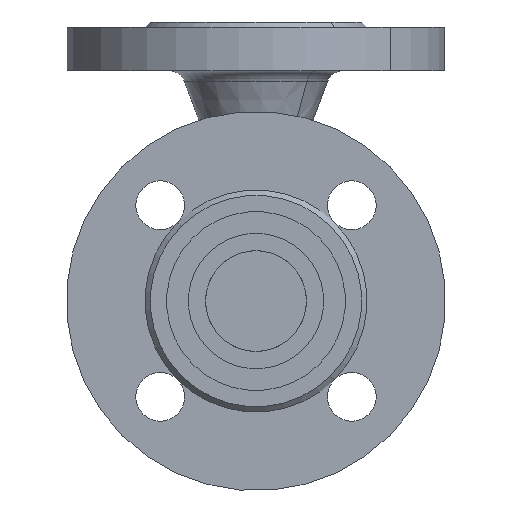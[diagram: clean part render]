
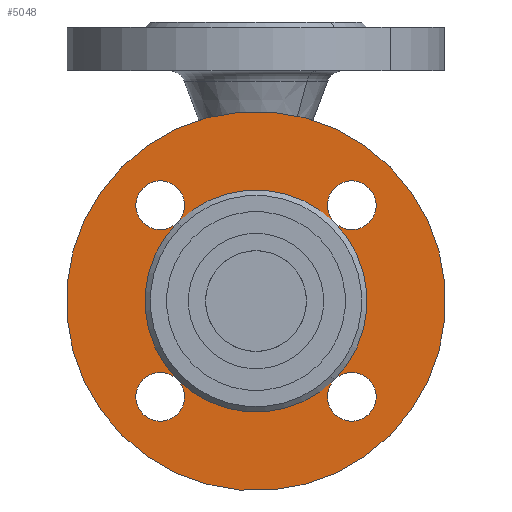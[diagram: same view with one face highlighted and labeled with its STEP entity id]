
A CAD part, front view. The second image highlights one B-rep face of the part: STEP entity #5048.
In plain terms, the highlighted planar face has unit normal (0, -1, 0).
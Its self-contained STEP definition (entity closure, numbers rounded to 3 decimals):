
#56 = VERTEX_POINT ( 'NONE', #8248 ) ;
#16461 = EDGE_CURVE ( 'NONE', #2964, #14043, #9989, .T. ) ;
#810 = CIRCLE ( 'NONE', #811, 9. ) ;
#811 = AXIS2_PLACEMENT_3D ( 'NONE', #812, #813, #814 ) ;
#812 = CARTESIAN_POINT ( 'NONE',  ( 50., 2., 0. ) ) ;
#813 = DIRECTION ( 'NONE',  ( 0., 1., 0. ) ) ;
#814 = DIRECTION ( 'NONE',  ( -1., 0., 0. ) ) ;
#961 = CIRCLE ( 'NONE', #962, 9. ) ;
#962 = AXIS2_PLACEMENT_3D ( 'NONE', #963, #964, #965 ) ;
#963 = CARTESIAN_POINT ( 'NONE',  ( 0., 2., -50. ) ) ;
#964 = DIRECTION ( 'NONE',  ( 0., 1., 0. ) ) ;
#965 = DIRECTION ( 'NONE',  ( -1., 0., 0. ) ) ;
#1134 = EDGE_CURVE ( 'NONE', #2964, #6689, #8934, .T. ) ;
#1160 = CIRCLE ( 'NONE', #1161, 41. ) ;
#1161 = AXIS2_PLACEMENT_3D ( 'NONE', #1162, #1163, #1164 ) ;
#1162 = CARTESIAN_POINT ( 'NONE',  ( 0., 2., 0. ) ) ;
#1163 = DIRECTION ( 'NONE',  ( 0., 1., 0. ) ) ;
#1164 = DIRECTION ( 'NONE',  ( -1., 0., 0. ) ) ;
#1475 = CIRCLE ( 'NONE', #1476, 9. ) ;
#1476 = AXIS2_PLACEMENT_3D ( 'NONE', #1479, #1480, #1481 ) ;
#1479 = CARTESIAN_POINT ( 'NONE',  ( -50., 2., 0. ) ) ;
#1480 = DIRECTION ( 'NONE',  ( 0., 1., 0. ) ) ;
#1481 = DIRECTION ( 'NONE',  ( -1., 0., 0. ) ) ;
#1635 = CARTESIAN_POINT ( 'NONE',  ( 70., 2., 0. ) ) ;
#1682 = VERTEX_POINT ( 'NONE', #9203 ) ;
#1859 = EDGE_CURVE ( 'NONE', #1682, #2964, #9265, .T. ) ;
#1931 = CARTESIAN_POINT ( 'NONE',  ( -70., 2., 0. ) ) ;
#2703 = CARTESIAN_POINT ( 'NONE',  ( -59., 2., 0. ) ) ;
#2737 = CARTESIAN_POINT ( 'NONE',  ( -41., 2., 0. ) ) ;
#2743 = CARTESIAN_POINT ( 'NONE',  ( 41., 2., 0. ) ) ;
#2744 = CIRCLE ( 'NONE', #2745, 9. ) ;
#2745 = AXIS2_PLACEMENT_3D ( 'NONE', #2746, #2750, #2751 ) ;
#2746 = CARTESIAN_POINT ( 'NONE',  ( 50., 2., 0. ) ) ;
#2750 = DIRECTION ( 'NONE',  ( 0., 1., 0. ) ) ;
#2751 = DIRECTION ( 'NONE',  ( -1., 0., 0. ) ) ;
#2775 = FACE_OUTER_BOUND ( 'NONE', #13787, .T. ) ;
#2776 = FACE_BOUND ( 'NONE', #6793, .T. ) ;
#2777 = PLANE ( 'NONE',  #2778 ) ;
#2778 = AXIS2_PLACEMENT_3D ( 'NONE', #2779, #2780, #2781 ) ;
#2779 = CARTESIAN_POINT ( 'NONE',  ( 41., 2., 0. ) ) ;
#2780 = DIRECTION ( 'NONE',  ( 0., 1., 0. ) ) ;
#2781 = DIRECTION ( 'NONE',  ( -1., 0., 0. ) ) ;
#2964 = VERTEX_POINT ( 'NONE', #10234 ) ;
#3056 = EDGE_CURVE ( 'NONE', #14026, #13930, #10619, .T. ) ;
#3613 = EDGE_CURVE ( 'NONE', #56, #14043, #810, .T. ) ;
#4026 = CARTESIAN_POINT ( 'NONE',  ( 9., 2., -50. ) ) ;
#4142 = CIRCLE ( 'NONE', #4143, 9. ) ;
#4143 = AXIS2_PLACEMENT_3D ( 'NONE', #4145, #4146, #4147 ) ;
#4145 = CARTESIAN_POINT ( 'NONE',  ( 0., 2., -50. ) ) ;
#4146 = DIRECTION ( 'NONE',  ( 0., 1., 0. ) ) ;
#4147 = DIRECTION ( 'NONE',  ( -1., 0., 0. ) ) ;
#4148 = CARTESIAN_POINT ( 'NONE',  ( -9., 2., -50. ) ) ;
#4672 = CIRCLE ( 'NONE', #4673, 70. ) ;
#4673 = AXIS2_PLACEMENT_3D ( 'NONE', #4675, #4676, #4677 ) ;
#4675 = CARTESIAN_POINT ( 'NONE',  ( 0., 2., 0. ) ) ;
#4676 = DIRECTION ( 'NONE',  ( 0., 1., 0. ) ) ;
#4677 = DIRECTION ( 'NONE',  ( -1., 0., 0. ) ) ;
#4702 = CARTESIAN_POINT ( 'NONE',  ( -9., 2., 50. ) ) ;
#5048 = ADVANCED_FACE ( 'NONE', ( #2775, #2776 ), #2777, .F. ) ;
#6685 = EDGE_CURVE ( 'NONE', #13218, #13340, #4672, .T. ) ;
#6689 = VERTEX_POINT ( 'NONE', #4702 ) ;
#6793 = EDGE_LOOP ( 'NONE', ( #7257, #11884, #12265, #7473, #11285, #10981, #8841, #12655, #12033, #10274, #10058, #9536, #14417, #13393 ) ) ;
#6847 = ORIENTED_EDGE ( 'NONE', *, *, #6685, .F. ) ;
#7257 = ORIENTED_EDGE ( 'NONE', *, *, #8385, .T. ) ;
#7473 = ORIENTED_EDGE ( 'NONE', *, *, #12835, .T. ) ;
#8248 = CARTESIAN_POINT ( 'NONE',  ( 59., 2., 0. ) ) ;
#8376 = CARTESIAN_POINT ( 'NONE',  ( 0., 2., -41. ) ) ;
#8385 = EDGE_CURVE ( 'NONE', #14043, #9410, #1160, .T. ) ;
#8475 = CIRCLE ( 'NONE', #8476, 41. ) ;
#8476 = AXIS2_PLACEMENT_3D ( 'NONE', #8481, #8482, #8483 ) ;
#8481 = CARTESIAN_POINT ( 'NONE',  ( 0., 2., 0. ) ) ;
#8482 = DIRECTION ( 'NONE',  ( 0., 1., 0. ) ) ;
#8483 = DIRECTION ( 'NONE',  ( -1., 0., 0. ) ) ;
#8506 = CIRCLE ( 'NONE', #8507, 9. ) ;
#8507 = AXIS2_PLACEMENT_3D ( 'NONE', #8508, #8509, #8510 ) ;
#8508 = CARTESIAN_POINT ( 'NONE',  ( 0., 2., -50. ) ) ;
#8509 = DIRECTION ( 'NONE',  ( 0., 1., 0. ) ) ;
#8510 = DIRECTION ( 'NONE',  ( -1., 0., 0. ) ) ;
#8516 = EDGE_CURVE ( 'NONE', #13930, #14026, #1475, .T. ) ;
#8670 = CIRCLE ( 'NONE', #8671, 9. ) ;
#8671 = AXIS2_PLACEMENT_3D ( 'NONE', #8672, #8673, #8674 ) ;
#8672 = CARTESIAN_POINT ( 'NONE',  ( 0., 2., 50. ) ) ;
#8673 = DIRECTION ( 'NONE',  ( 0., 1., 0. ) ) ;
#8674 = DIRECTION ( 'NONE',  ( -1., 0., 0. ) ) ;
#8841 = ORIENTED_EDGE ( 'NONE', *, *, #8516, .T. ) ;
#8934 = CIRCLE ( 'NONE', #8935, 9. ) ;
#8935 = AXIS2_PLACEMENT_3D ( 'NONE', #8936, #8937, #8938 ) ;
#8936 = CARTESIAN_POINT ( 'NONE',  ( 0., 2., 50. ) ) ;
#8937 = DIRECTION ( 'NONE',  ( 0., 1., 0. ) ) ;
#8938 = DIRECTION ( 'NONE',  ( -1., 0., 0. ) ) ;
#9132 = CIRCLE ( 'NONE', #9133, 70. ) ;
#9133 = AXIS2_PLACEMENT_3D ( 'NONE', #9134, #9135, #9136 ) ;
#9134 = CARTESIAN_POINT ( 'NONE',  ( 0., 2., 0. ) ) ;
#9135 = DIRECTION ( 'NONE',  ( 0., 1., 0. ) ) ;
#9136 = DIRECTION ( 'NONE',  ( -1., 0., 0. ) ) ;
#9194 = CIRCLE ( 'NONE', #9195, 41. ) ;
#9195 = AXIS2_PLACEMENT_3D ( 'NONE', #9196, #9197, #9198 ) ;
#9196 = CARTESIAN_POINT ( 'NONE',  ( 0., 2., 0. ) ) ;
#9197 = DIRECTION ( 'NONE',  ( 0., 1., 0. ) ) ;
#9198 = DIRECTION ( 'NONE',  ( -1., 0., 0. ) ) ;
#9203 = CARTESIAN_POINT ( 'NONE',  ( 9., 2., 50. ) ) ;
#9265 = CIRCLE ( 'NONE', #9266, 9. ) ;
#9266 = AXIS2_PLACEMENT_3D ( 'NONE', #9267, #9268, #9269 ) ;
#9267 = CARTESIAN_POINT ( 'NONE',  ( 0., 2., 50. ) ) ;
#9268 = DIRECTION ( 'NONE',  ( 0., 1., 0. ) ) ;
#9269 = DIRECTION ( 'NONE',  ( -1., 0., 0. ) ) ;
#9410 = VERTEX_POINT ( 'NONE', #8376 ) ;
#9536 = ORIENTED_EDGE ( 'NONE', *, *, #16461, .T. ) ;
#9633 = EDGE_CURVE ( 'NONE', #9410, #14026, #8475, .T. ) ;
#9655 = EDGE_CURVE ( 'NONE', #9410, #15157, #8506, .T. ) ;
#9945 = EDGE_CURVE ( 'NONE', #6689, #1682, #8670, .T. ) ;
#9989 = CIRCLE ( 'NONE', #9990, 41. ) ;
#9990 = AXIS2_PLACEMENT_3D ( 'NONE', #9991, #9992, #9993 ) ;
#9991 = CARTESIAN_POINT ( 'NONE',  ( 0., 2., 0. ) ) ;
#9992 = DIRECTION ( 'NONE',  ( 0., 1., 0. ) ) ;
#9993 = DIRECTION ( 'NONE',  ( -1., 0., 0. ) ) ;
#10058 = ORIENTED_EDGE ( 'NONE', *, *, #1859, .T. ) ;
#10234 = CARTESIAN_POINT ( 'NONE',  ( 0., 2., 41. ) ) ;
#10274 = ORIENTED_EDGE ( 'NONE', *, *, #9945, .T. ) ;
#10619 = CIRCLE ( 'NONE', #10620, 9. ) ;
#10620 = AXIS2_PLACEMENT_3D ( 'NONE', #10621, #10622, #10623 ) ;
#10621 = CARTESIAN_POINT ( 'NONE',  ( -50., 2., 0. ) ) ;
#10622 = DIRECTION ( 'NONE',  ( 0., 1., 0. ) ) ;
#10623 = DIRECTION ( 'NONE',  ( -1., 0., 0. ) ) ;
#10665 = EDGE_CURVE ( 'NONE', #13340, #13218, #9132, .T. ) ;
#10803 = EDGE_CURVE ( 'NONE', #14026, #2964, #9194, .T. ) ;
#10981 = ORIENTED_EDGE ( 'NONE', *, *, #3056, .T. ) ;
#11285 = ORIENTED_EDGE ( 'NONE', *, *, #9633, .T. ) ;
#11884 = ORIENTED_EDGE ( 'NONE', *, *, #9655, .T. ) ;
#12033 = ORIENTED_EDGE ( 'NONE', *, *, #1134, .T. ) ;
#12089 = ORIENTED_EDGE ( 'NONE', *, *, #10665, .F. ) ;
#12265 = ORIENTED_EDGE ( 'NONE', *, *, #15342, .T. ) ;
#12655 = ORIENTED_EDGE ( 'NONE', *, *, #10803, .T. ) ;
#12835 = EDGE_CURVE ( 'NONE', #15359, #9410, #961, .T. ) ;
#13218 = VERTEX_POINT ( 'NONE', #1635 ) ;
#13340 = VERTEX_POINT ( 'NONE', #1931 ) ;
#13393 = ORIENTED_EDGE ( 'NONE', *, *, #3613, .T. ) ;
#13787 = EDGE_LOOP ( 'NONE', ( #12089, #6847 ) ) ;
#13930 = VERTEX_POINT ( 'NONE', #2703 ) ;
#14026 = VERTEX_POINT ( 'NONE', #2737 ) ;
#14043 = VERTEX_POINT ( 'NONE', #2743 ) ;
#14060 = EDGE_CURVE ( 'NONE', #14043, #56, #2744, .T. ) ;
#14417 = ORIENTED_EDGE ( 'NONE', *, *, #14060, .T. ) ;
#15157 = VERTEX_POINT ( 'NONE', #4026 ) ;
#15342 = EDGE_CURVE ( 'NONE', #15157, #15359, #4142, .T. ) ;
#15359 = VERTEX_POINT ( 'NONE', #4148 ) ;
